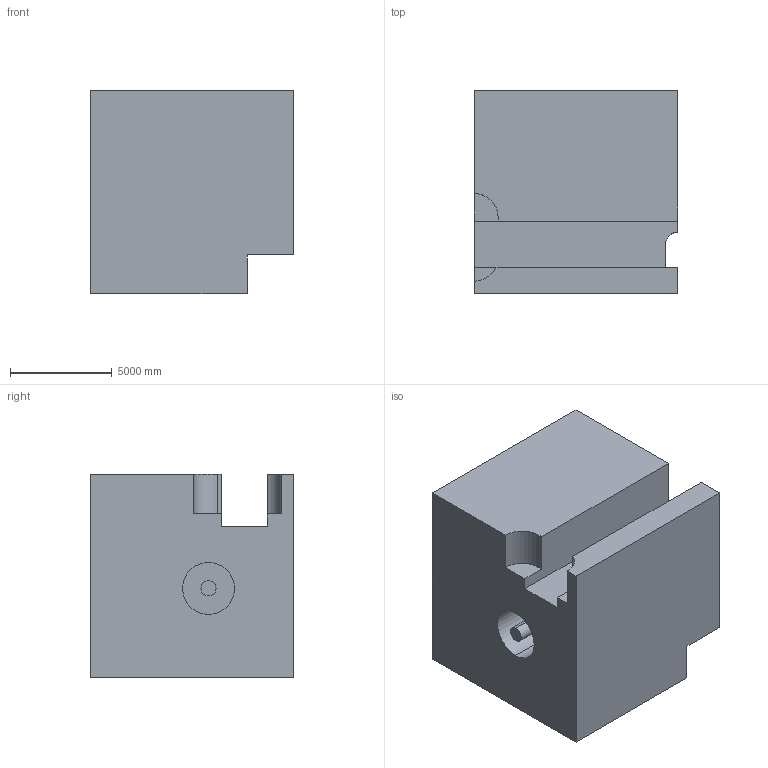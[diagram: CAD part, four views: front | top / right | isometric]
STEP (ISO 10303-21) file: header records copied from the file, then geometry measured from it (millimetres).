
FILE_DESCRIPTION (( 'STEP AP203' ), '1' );
FILE_NAME ('1423.STEP', '2022-08-18T14:23:16', ( 'user' ), ( '' ), 'SwSTEP 2.0', 'SolidWorks 2021', '' );
FILE_SCHEMA (( 'CONFIG_CONTROL_DESIGN' ));
Length unit declared in the file: centimetre
Products named in the file (1): 1423
Bounding box: 10000 x 10000 x 10000 mm (x, y, z)
Volume: 848436198502.1 mm3; surface area: 718006239.6 mm2
Topology: 1 solids, 1 shells, 28 faces, 72 edges, 48 vertices
Faces by surface type: plane 20, cylinder 8
Entity records: 929 total; most frequent: CARTESIAN_POINT 149, DIRECTION 146, ORIENTED_EDGE 144, EDGE_CURVE 72, LINE 56, VECTOR 56, VERTEX_POINT 48, AXIS2_PLACEMENT_3D 45
